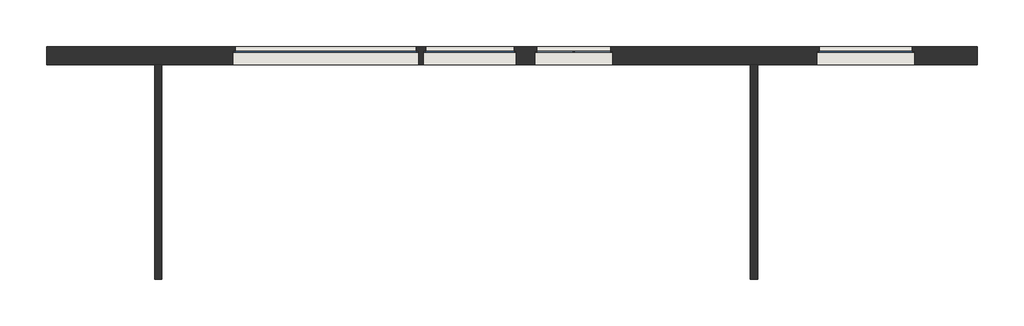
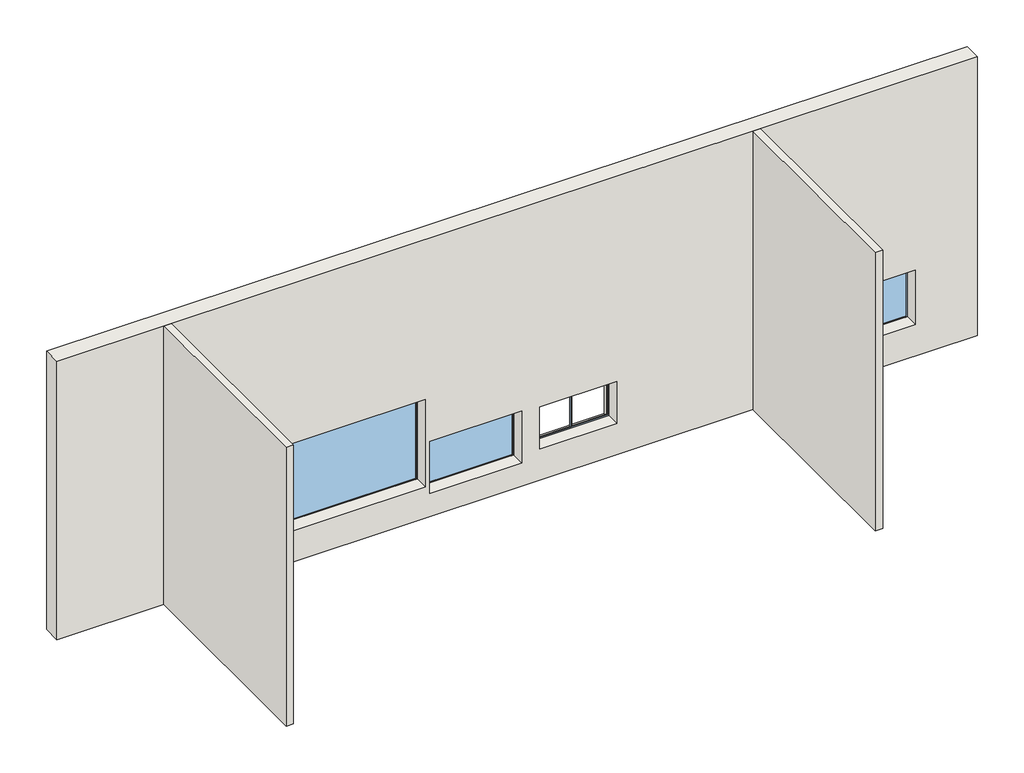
# One storey: 4 windows, 3 walls.
"""IFC4 building model written with IfcOpenShell, lengths in millimetres."""

from ifc_helpers import new_model, si_unit, origin, origin_with_axes, place, context, project, spatial, polyline, outline, extrude, faceted_brep, transform, mapped, element, save
from components import window_8130281b, window_96b263d5, window_2dbe628d, window_f7cbbf08

model = new_model("IFC4")

# Units and contexts
model_context = context("Model", 3, world=origin())
ifc_project = project(units=[si_unit("LENGTHUNIT", "METRE", prefix="MILLI")], contexts=[model_context])

# Site, building, storey
site = spatial("IfcSite", under=ifc_project)
building = spatial("IfcBuilding", under=site)
storey = spatial("IfcBuildingStorey", under=building, Name="Уровень 1", Elevation=0.0)

# Walls
placement = place(None, origin())
element("IfcWall", 1, ObjectType="Наружный - Кирпич на бетонном блоке", at=placement, inside=storey, context=model_context, shape_type="Brep", body=[
    faceted_brep([(-19672.7642056, 12056.7572883, 0.0), (-16772.7642056, 12056.7572883, 0.0), (-16572.7642056, 12056.7572883, 0.0), (-772.7642056, 12056.7572883, 0.0), (-572.7642056, 12056.7572883, 0.0), (5327.2357944, 12056.7572883, 0.0), (5327.2357944, 12056.7572883, 8000.0), (-572.7642056, 12056.7572883, 8000.0), (-772.7642056, 12056.7572883, 8000.0), (-16572.7642056, 12056.7572883, 8000.0), (-16772.7642056, 12056.7572883, 8000.0), (-19672.7642056, 12056.7572883, 8000.0), (-6562.7642056, 12056.7572883, 2100.0), (-4462.7642056, 12056.7572883, 2100.0), (-4462.7642056, 12056.7572883, 900.0), (-6562.7642056, 12056.7572883, 900.0), (-9552.7642056, 12056.7572883, 2165.0), (-7052.7642056, 12056.7572883, 2165.0), (-7052.7642056, 12056.7572883, 665.0), (-9552.7642056, 12056.7572883, 665.0), (-14672.7642056, 12056.7572883, 3400.0), (-9672.7642056, 12056.7572883, 3400.0), (-9672.7642056, 12056.7572883, 900.0), (-14672.7642056, 12056.7572883, 900.0), (1012.2357944, 12056.7572883, 2460.0), (3642.2357944, 12056.7572883, 2460.0), (3642.2357944, 12056.7572883, 900.0), (1012.2357944, 12056.7572883, 900.0), (5327.2357944, 12546.7572883, 0.0), (-19672.7642056, 12546.7572883, 0.0), (-19672.7642056, 12546.7572883, 8000.0), (5327.2357944, 12546.7572883, 8000.0), (-6502.7642056, 12546.7572883, 900.0), (-4522.7642056, 12546.7572883, 900.0), (-4522.7642056, 12546.7572883, 2035.0), (-6502.7642056, 12546.7572883, 2035.0), (-9487.7642056, 12546.7572883, 665.0), (-7117.7642056, 12546.7572883, 665.0), (-7117.7642056, 12546.7572883, 2095.0), (-9487.7642056, 12546.7572883, 2095.0), (-14607.7642056, 12546.7572883, 900.0), (-9737.7642056, 12546.7572883, 900.0), (-9737.7642056, 12546.7572883, 3340.0), (-14607.7642056, 12546.7572883, 3340.0), (1077.2357944, 12546.7572883, 900.0), (3577.2357944, 12546.7572883, 900.0), (3577.2357944, 12546.7572883, 2400.0), (1077.2357944, 12546.7572883, 2400.0), (-4462.7642056, 12426.7572883, 2100.0), (-6562.7642056, 12426.7572883, 2100.0), (-6562.7642056, 12426.7572883, 900.0), (-6502.7642056, 12426.7572883, 900.0), (-6502.7642056, 12426.7572883, 2035.0), (-4522.7642056, 12426.7572883, 2035.0), (-4522.7642056, 12426.7572883, 900.0), (-4462.7642056, 12426.7572883, 900.0), (-7052.7642056, 12426.7572883, 2165.0), (-9552.7642056, 12426.7572883, 2165.0), (-9552.7642056, 12426.7572883, 665.0), (-9487.7642056, 12426.7572883, 665.0), (-9487.7642056, 12426.7572883, 2095.0), (-7117.7642056, 12426.7572883, 2095.0), (-7117.7642056, 12426.7572883, 665.0), (-7052.7642056, 12426.7572883, 665.0), (-9672.7642056, 12426.7572883, 3400.0), (-14672.7642056, 12426.7572883, 3400.0), (-14672.7642056, 12426.7572883, 900.0), (-14607.7642056, 12426.7572883, 900.0), (-14607.7642056, 12426.7572883, 3340.0), (-9737.7642056, 12426.7572883, 3340.0), (-9737.7642056, 12426.7572883, 900.0), (-9672.7642056, 12426.7572883, 900.0), (3642.2357944, 12426.7572883, 2460.0), (1012.2357944, 12426.7572883, 2460.0), (1012.2357944, 12426.7572883, 900.0), (1077.2357944, 12426.7572883, 900.0), (1077.2357944, 12426.7572883, 2400.0), (3577.2357944, 12426.7572883, 2400.0), (3577.2357944, 12426.7572883, 900.0), (3642.2357944, 12426.7572883, 900.0)], [[[0, 1, 2, 3, 4, 5, 6, 7, 8, 9, 10, 11], [12, 13, 14, 15], [16, 17, 18, 19], [20, 21, 22, 23], [24, 25, 26, 27]], [[28, 29, 30, 31], [32, 33, 34, 35], [36, 37, 38, 39], [40, 41, 42, 43], [44, 45, 46, 47]], [[5, 4, 3, 2, 1, 0, 29, 28]], [[6, 5, 28, 31]], [[11, 10, 9, 8, 7, 6, 31, 30]], [[0, 11, 30, 29]], [[48, 49, 50, 51, 52, 53, 54, 55]], [[49, 48, 13, 12]], [[50, 49, 12, 15]], [[51, 50, 15, 14, 55, 54, 33, 32]], [[48, 55, 14, 13]], [[52, 51, 32, 35]], [[54, 53, 34, 33]], [[53, 52, 35, 34]], [[56, 57, 58, 59, 60, 61, 62, 63]], [[57, 56, 17, 16]], [[58, 57, 16, 19]], [[59, 58, 19, 18, 63, 62, 37, 36]], [[56, 63, 18, 17]], [[60, 59, 36, 39]], [[62, 61, 38, 37]], [[61, 60, 39, 38]], [[64, 65, 66, 67, 68, 69, 70, 71]], [[65, 64, 21, 20]], [[66, 65, 20, 23]], [[66, 23, 22, 71, 70, 41, 40, 67]], [[64, 71, 22, 21]], [[67, 40, 43, 68]], [[41, 70, 69, 42]], [[68, 43, 42, 69]], [[72, 73, 74, 75, 76, 77, 78, 79]], [[73, 72, 25, 24]], [[74, 73, 24, 27]], [[74, 27, 26, 79, 78, 45, 44, 75]], [[72, 79, 26, 25]], [[75, 44, 47, 76]], [[45, 78, 77, 46]], [[76, 47, 46, 77]]]),
])
element("IfcWall", 2, ObjectType="Типовой - 200мм", at=placement, inside=storey, context=model_context, shape_type="SweptSolid", body=[
    extrude(outline(polyline([(-772.7642056, 6301.7572883), (-772.7642056, 12056.7572883), (-572.7642056, 12056.7572883), (-572.7642056, 6301.7572883), (-772.7642056, 6301.7572883)])), origin_with_axes(), (0.0, 0.0, 1.0), 8000.0),
])
element("IfcWall", 3, ObjectType="Типовой - 200мм", at=placement, inside=storey, context=model_context, shape_type="SweptSolid", body=[
    extrude(outline(polyline([(-16772.7642056, 6301.7572883), (-16772.7642056, 12056.7572883), (-16572.7642056, 12056.7572883), (-16572.7642056, 6301.7572883), (-16772.7642056, 6301.7572883)])), origin_with_axes(), (0.0, 0.0, 1.0), 8000.0),
])

# Windows
window_shape = window_8130281b(model_context)
element("IfcWindow", 4, ObjectType="2_07_Окно_Рама-1 : Тип 1", at=placement, inside=storey, context=model_context, shape_type="MappedRepresentation", body=[
    mapped(window_shape, transform((-5637.7642056, 12301.7572883, 0.0), x_axis=(1.0, 0.0, 0.0), y_axis=(0.0, 1.0, 0.0), z_axis=(0.0, 0.0, 1.0))),
])
window_2_shape = window_96b263d5(model_context)
element("IfcWindow", 5, ObjectType="2_09_Окно_Остекление : Тип 1", at=placement, inside=storey, context=model_context, shape_type="MappedRepresentation", body=[
    mapped(window_2_shape, transform((-8427.7642056, 12301.7572883, -235.0), x_axis=(1.0, 0.0, 0.0), y_axis=(0.0, 1.0, 0.0), z_axis=(0.0, 0.0, 1.0))),
])
window_3_shape = window_2dbe628d(model_context)
element("IfcWindow", 6, ObjectType="2_10_Окно_Четверть_Управление : Тип 1", at=placement, inside=storey, context=model_context, shape_type="MappedRepresentation", body=[
    mapped(window_3_shape, transform((-12297.7642056, 12301.7572883, 0.0), x_axis=(1.0, 0.0, 0.0), y_axis=(0.0, 1.0, 0.0), z_axis=(0.0, 0.0, 1.0))),
])
window_4_shape = window_f7cbbf08(model_context)
element("IfcWindow", 7, ObjectType="2_12_Окно_Открывание-2 : Тип 1", at=placement, inside=storey, context=model_context, shape_type="MappedRepresentation", body=[
    mapped(window_4_shape, transform((2202.2357944, 12301.7572883, 0.0), x_axis=(1.0, 0.0, 0.0), y_axis=(0.0, 1.0, 0.0), z_axis=(0.0, 0.0, 1.0))),
])

save(model, "model.ifc")
